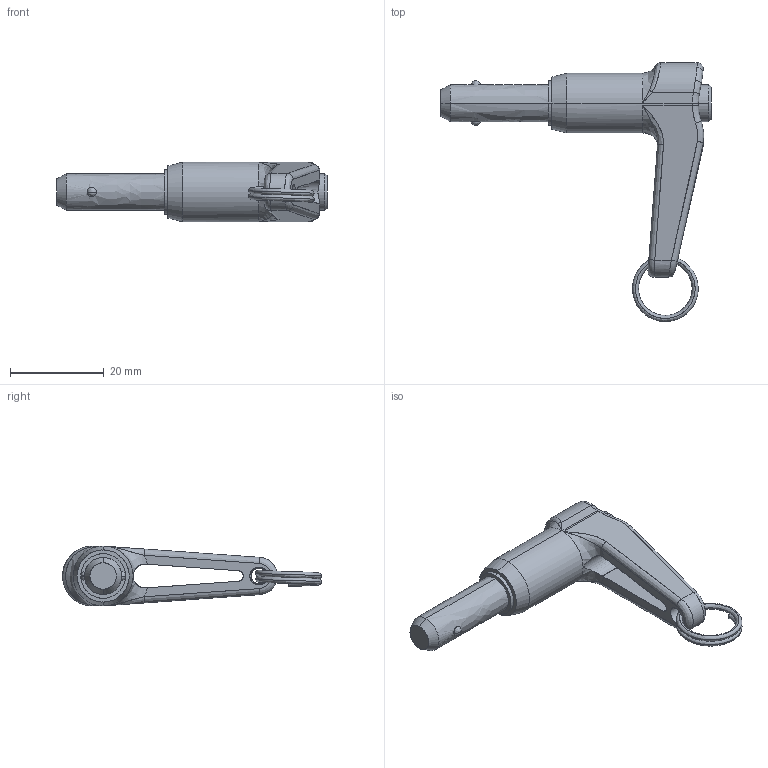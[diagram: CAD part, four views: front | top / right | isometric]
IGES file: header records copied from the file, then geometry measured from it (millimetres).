
Start section: SolidWorks IGES file using analytic representation for surfaces
Global section: file name: C:\Documents and Settings\IANO\My Documents\Wix and Auto CAD Work\CAD Models\Parametric Models\Wix Models\30000\33620_v2\33620_v2_20160606_IGES\33620.C006.igs; native system: SolidWorks 2009; preprocessor: SolidWorks 2009; author: IANO; date: 160615.125727; units: inch
Bounding box: 57.49 x 55.09 x 12.7 mm (x, y, z)
Surface area: 5328.9 mm2 (no closed solid volume)
Topology: 0 solids, 0 shells, 85 faces, 1226 edges, 1224 vertices
Faces by surface type: bspline 55, revolution 30
